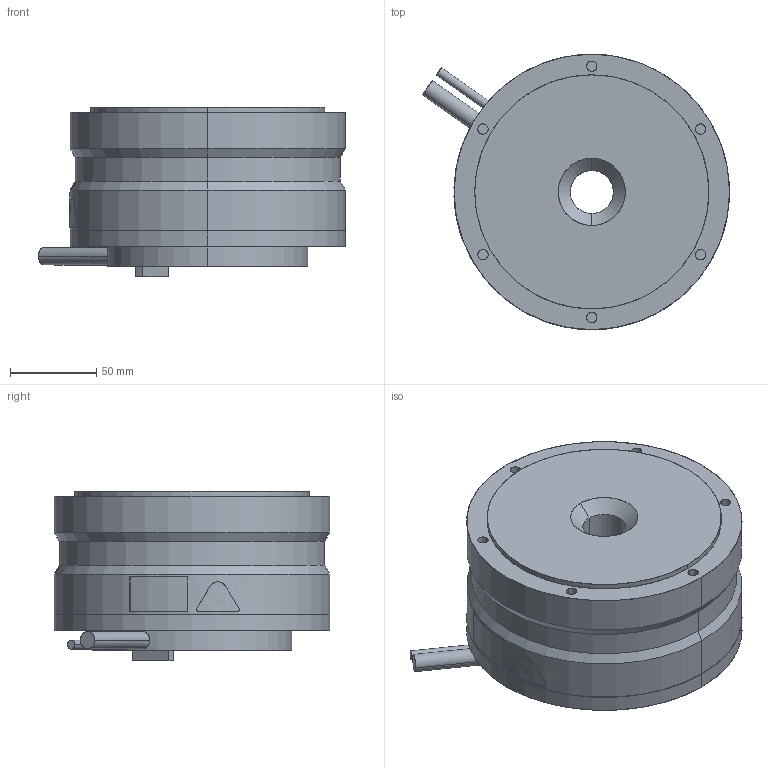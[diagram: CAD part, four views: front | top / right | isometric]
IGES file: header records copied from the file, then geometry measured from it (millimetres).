
Start section: SolidWorks IGES file using analytic representation for surfaces
Bounding box: 178.36 x 160 x 98.5 mm (x, y, z)
Surface area: 99881.3 mm2 (no closed solid volume)
Topology: 0 solids, 0 shells, 188 faces, 4124 edges, 4124 vertices
Faces by surface type: revolution 112, bspline 76
